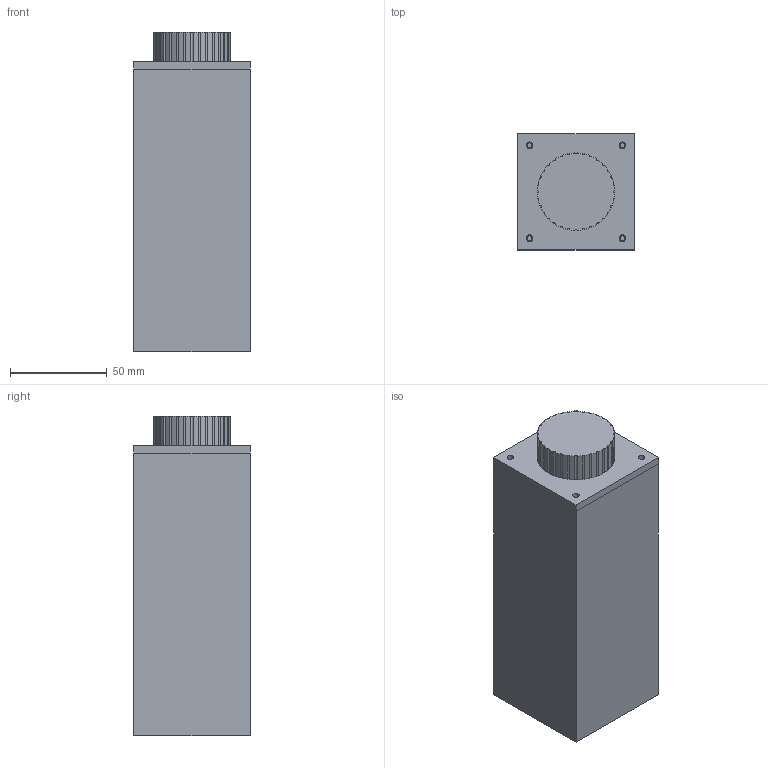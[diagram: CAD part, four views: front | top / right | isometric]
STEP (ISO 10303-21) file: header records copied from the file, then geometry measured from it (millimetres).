
FILE_DESCRIPTION(('Open CASCADE Model'),'2;1');
FILE_NAME('Open CASCADE Shape Model','2026-10-21T16:58:02',('Author'),( 'Open CASCADE'),'Open CASCADE STEP processor 7.9','Open CASCADE 7.9' ,'Unknown');
FILE_SCHEMA(('AUTOMOTIVE_DESIGN { 1 0 10303 214 1 1 1 1 }'));
Length unit declared in the file: millimetre
Products named in the file (4): P06_illustrative; square_bottle_body_0; bottle_shoulder_thread_1; threaded_cap_2
Assembly tree (3 placements, depth 2):
  P06_illustrative
    square_bottle_body_0
    bottle_shoulder_thread_1
    threaded_cap_2
Bounding box: 60 x 60 x 165 mm (x, y, z)
Volume: 137186.4 mm3; surface area: 89673.6 mm2
Topology: 3 solids, 3 shells, 128 faces, 334 edges, 222 vertices
Faces by surface type: cylinder 87, plane 35, bspline 6
Full cylindrical faces by diameter (mm): 2.5 x4, 3.4 x4, 22 x1, 28 x3, 28.6 x3, 30.6 x2
Entity records: 12176 total; most frequent: CARTESIAN_POINT 5460, DIRECTION 1272, ORIENTED_EDGE 668, PCURVE 668, DEFINITIONAL_REPRESENTATION 668, LINE 593, VECTOR 593, EDGE_CURVE 334
